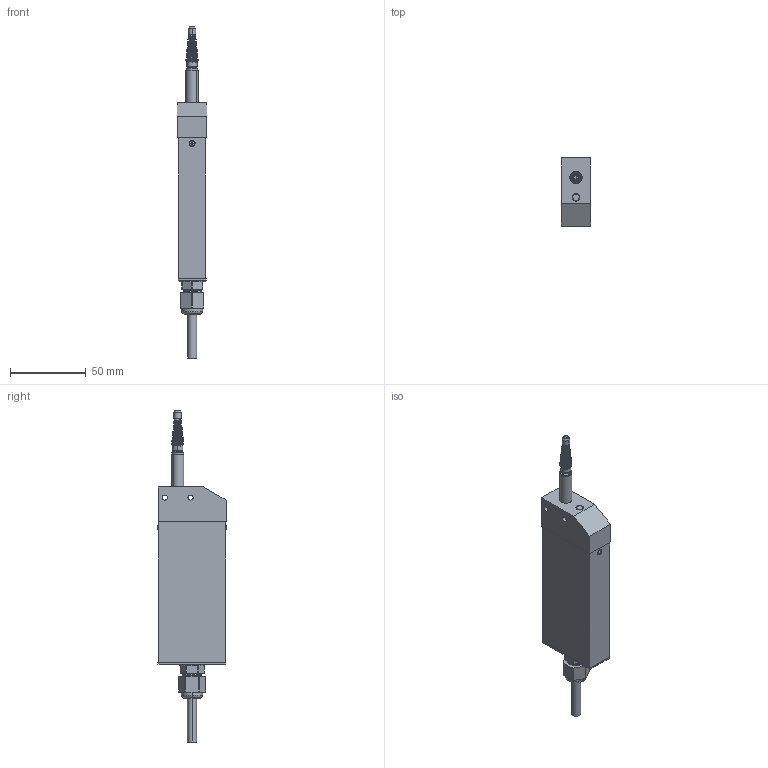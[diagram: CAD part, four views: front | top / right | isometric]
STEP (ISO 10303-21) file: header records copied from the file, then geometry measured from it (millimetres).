
FILE_DESCRIPTION (( 'STEP AP214' ), '1' );
FILE_NAME ('ËÈÐ-14_ 10 ìì.STEP', '2017-05-23T08:26:31', ( '' ), ( '' ), 'SwSTEP 2.0', 'SolidWorks 2013', '' );
FILE_SCHEMA (( 'AUTOMOTIVE_DESIGN' ));
Length unit declared in the file: millimetre
Products named in the file (1): ËÈÐ-14_ 10 ìì
Bounding box: 19.5 x 45.47 x 219.32 mm (x, y, z)
Volume: 38052.3 mm3; surface area: 46488.1 mm2
Topology: 72 solids, 72 shells, 1188 faces, 3256 edges, 2069 vertices
Faces by surface type: cylinder 376, cone 370, plane 209, sphere 170, torus 54, bspline 9
Entity records: 55206 total; most frequent: CARTESIAN_POINT 13237, ORIENTED_EDGE 5916, DIRECTION 5845, EDGE_CURVE 2958, AXIS2_PLACEMENT_3D 2375, VERTEX_POINT 1893, EDGE_LOOP 1339, UNCERTAINTY_MEASURE_WITH_UNIT 1262
